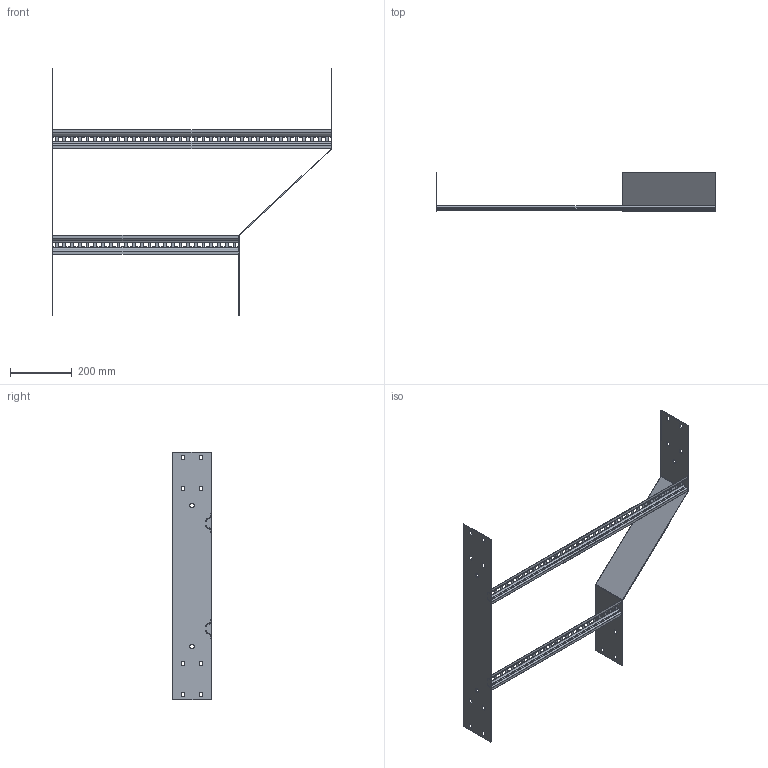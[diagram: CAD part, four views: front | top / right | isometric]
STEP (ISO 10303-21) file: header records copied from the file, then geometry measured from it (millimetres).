
FILE_DESCRIPTION (( 'STEP AP203' ), '1' );
FILE_NAME ('N3 LHR900600.STEP', '2024-08-27T06:22:50', ( '' ), ( '' ), 'SwSTEP 2.0', 'SolidWorks 2023', '' );
FILE_SCHEMA (( 'CONFIG_CONTROL_DESIGN' ));
Length unit declared in the file: millimetre
Products named in the file (5): N3 LHR900600; N3 Back Plate_800; N3 Reducer side plate_LHR600x900; Ladder Rung_Ladder Rung -  900mm; Ladder Rung_Ladder Rung -  600mm
Assembly tree (4 placements, depth 2):
  N3 LHR900600
    N3 Reducer side plate_LHR600x900
    Ladder Rung_Ladder Rung -  600mm
    Ladder Rung_Ladder Rung -  900mm
    N3 Back Plate_800
Bounding box: 904 x 124 x 800 mm (x, y, z)
Volume: 583294.1 mm3; surface area: 643867.3 mm2
Topology: 4 solids, 4 shells, 424 faces, 1168 edges, 752 vertices
Faces by surface type: plane 396, cylinder 28
Entity records: 13983 total; most frequent: CARTESIAN_POINT 2351, ORIENTED_EDGE 2336, DIRECTION 2086, EDGE_CURVE 1168, LINE 1112, VECTOR 1112, VERTEX_POINT 752, EDGE_LOOP 580
